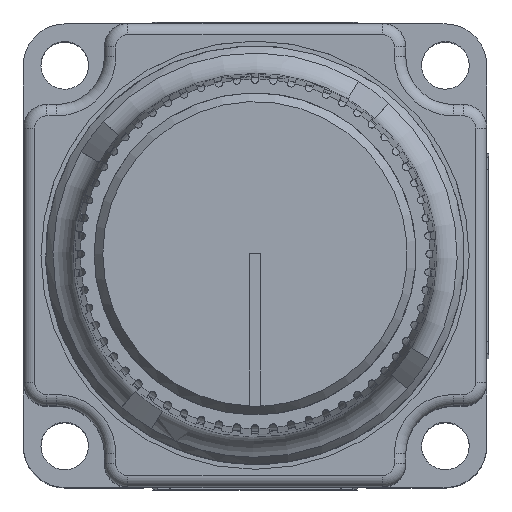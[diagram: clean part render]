
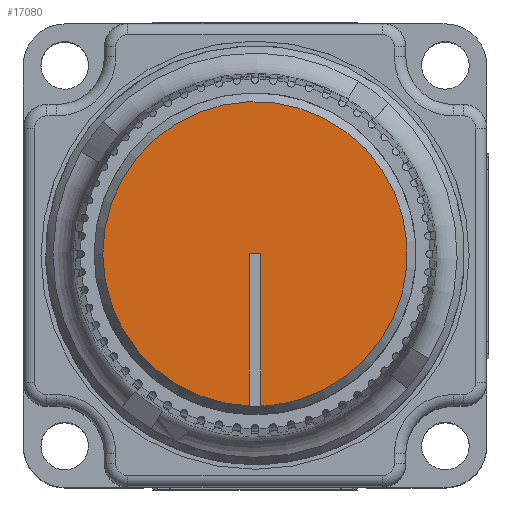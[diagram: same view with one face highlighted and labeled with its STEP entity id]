
A CAD part, top view. The second image highlights one B-rep face of the part: STEP entity #17080.
In plain terms, the highlighted planar face has unit normal (0, 0, 1).
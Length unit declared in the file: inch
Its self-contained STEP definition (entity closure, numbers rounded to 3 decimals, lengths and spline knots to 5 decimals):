
#897=PLANE('',#18781);
#1639=FACE_OUTER_BOUND('',#2645,.T.);
#2645=EDGE_LOOP('',(#13254,#13255,#13256,#13257,#13258));
#3540=CIRCLE('',#18782,0.4);
#3541=CIRCLE('',#18783,0.4);
#4722=LINE('',#28837,#5882);
#4723=LINE('',#28843,#5883);
#4724=LINE('',#28844,#5884);
#5882=VECTOR('',#22898,0.3937);
#5883=VECTOR('',#22903,0.3937);
#5884=VECTOR('',#22904,0.3937);
#7277=VERTEX_POINT('',#28835);
#7278=VERTEX_POINT('',#28836);
#7279=VERTEX_POINT('',#28838);
#7280=VERTEX_POINT('',#28840);
#7281=VERTEX_POINT('',#28842);
#9375=EDGE_CURVE('',#7277,#7278,#4722,.T.);
#9376=EDGE_CURVE('',#7278,#7279,#3540,.T.);
#9377=EDGE_CURVE('',#7279,#7280,#3541,.T.);
#9378=EDGE_CURVE('',#7280,#7281,#4723,.T.);
#9379=EDGE_CURVE('',#7281,#7277,#4724,.T.);
#13254=ORIENTED_EDGE('',*,*,#9375,.T.);
#13255=ORIENTED_EDGE('',*,*,#9376,.T.);
#13256=ORIENTED_EDGE('',*,*,#9377,.T.);
#13257=ORIENTED_EDGE('',*,*,#9378,.T.);
#13258=ORIENTED_EDGE('',*,*,#9379,.T.);
#17080=ADVANCED_FACE('',(#1639),#897,.T.);
#18781=AXIS2_PLACEMENT_3D('',#28834,#22896,#22897);
#18782=AXIS2_PLACEMENT_3D('',#28839,#22899,#22900);
#18783=AXIS2_PLACEMENT_3D('',#28841,#22901,#22902);
#22896=DIRECTION('center_axis',(0.,0.,1.));
#22897=DIRECTION('ref_axis',(1.,0.,0.));
#22898=DIRECTION('',(0.,-1.,0.));
#22899=DIRECTION('center_axis',(0.,0.,
1.));
#22900=DIRECTION('ref_axis',(0.325,0.946,0.));
#22901=DIRECTION('center_axis',(0.,0.,
1.));
#22902=DIRECTION('ref_axis',(0.325,0.946,0.));
#22903=DIRECTION('',(0.,1.,0.));
#22904=DIRECTION('',(1.,0.,0.));
#28834=CARTESIAN_POINT('Origin',(-0.30503,-0.27044,
1.82375));
#28835=CARTESIAN_POINT('',(-0.29003,0.12967,1.82375));
#28836=CARTESIAN_POINT('',(-0.29003,-0.27005,1.82375));
#28837=CARTESIAN_POINT('',(-0.29003,0.12967,1.82375));
#28838=CARTESIAN_POINT('',(-0.19085,-0.25369,1.82375));
#28839=CARTESIAN_POINT('Origin',(-0.30503,0.12967,1.82375));
#28840=CARTESIAN_POINT('',(-0.32003,-0.27005,1.82375));
#28841=CARTESIAN_POINT('Origin',(-0.30503,0.12967,1.82375));
#28842=CARTESIAN_POINT('',(-0.32003,0.12967,1.82375));
#28843=CARTESIAN_POINT('',(-0.32003,-0.27005,1.82375));
#28844=CARTESIAN_POINT('',(-0.32003,0.12967,1.82375));
